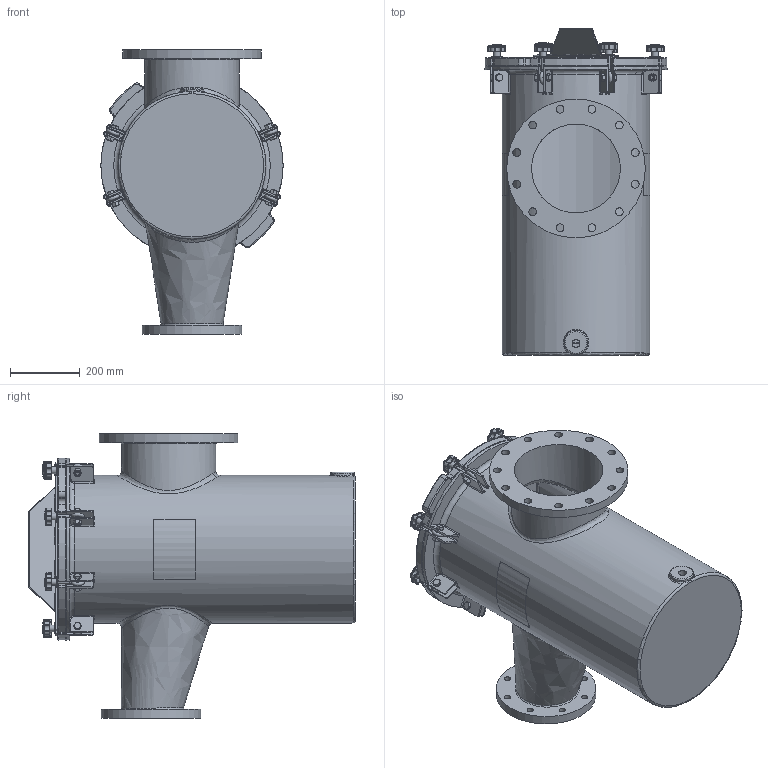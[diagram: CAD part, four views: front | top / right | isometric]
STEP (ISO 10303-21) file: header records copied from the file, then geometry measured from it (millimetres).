
FILE_DESCRIPTION(/* description */ ('250MM X 150MM FIBERGLASS STRAINER BODY'),/* implementation_level */ '2;1');
FILE_NAME(/* name */ 'E:\New folder (7)\Ready for delivery - Do not Disturb -Updated with metric Flange\Workspace\FG Reducing Strainer\Guardian FG Reducing H&L Strainer (Metric)\STRAINER H&L 250MM X 150MM.step',/* time_stamp */ '2016-10-19T04:15:07+06:00',/* author */ ('20076253'),/* organization */ (''),/* preprocessor_version */ 'ST-DEVELOPER v16.1',/* originating_system */ 'Autodesk Inventor 2016',/* authorisation */ '');
FILE_SCHEMA (('AUTOMOTIVE_DESIGN { 1 0 10303 214 3 1 1 }'));
Length unit declared in the file: inch
Products named in the file (24): NBFGBODY10X06MM; 150NBCVR20R2; 150NBGSK16R1; Perforated Basket 16in; Bride (Ring) 16in; Baffle 16in; Handle 16in; Bottom Strainer 16in; NBBSK10T316; BRACESTRCVR16_Welds; BRACE (BASE) FOR 16 BODY; BRACE (PROJ) FOR 16 BODY; Bumper; BRACESTRCVR16; Nut- 1_2  UNC; Bolt-1_2 x 1 1_2  UNC; EyeBolt; Washer; Knob M10; Securing Assembly For FG  with Brace; Securing Assembly For FG without Brace; Label for 16.625 inch (Right); Label for 16.625 inch (Left); STRAINER H&L 250MM X 150MM
Assembly tree (39 placements, depth 3):
  STRAINER H&L 250MM X 150MM
    NBFGBODY10X06MM
    150NBCVR20R2
    150NBGSK16R1
    NBBSK10T316
      Perforated Basket 16in
      Bride (Ring) 16in
      Baffle 16in
      Handle 16in
      Bottom Strainer 16in
    BRACESTRCVR16
      BRACESTRCVR16_Welds
      BRACE (BASE) FOR 16 BODY
      BRACE (PROJ) FOR 16 BODY
      Bumper  x6
    Securing Assembly For FG  with Brace  x2
      Nut- 1_2  UNC
      Bolt-1_2 x 1 1_2  UNC
      EyeBolt
      Washer
      Knob M10
    Securing Assembly For FG without Brace  x6
      Nut- 1_2  UNC
      Bolt-1_2 x 1 1_2  UNC
      EyeBolt
      Washer
      Knob M10
    Label for 16.625 inch (Right)
    Label for 16.625 inch (Left)
Bounding box: 520.7 x 933.45 x 812.8 mm (x, y, z)
Volume: 22679374.3 mm3; surface area: 5744333.1 mm2
Topology: 66 solids, 66 shells, 1804 faces, 4113 edges, 2430 vertices
Faces by surface type: cylinder 658, plane 500, cone 184, torus 166, sphere 158, bspline 138
Full cylindrical faces by diameter (mm): 3.175 x11, 6.35 x2, 8.382 x8, 9.525 x16, 10.592 x8, 12.7 x8, 15.875 x16, 17.78 x8, 19 x16, 19.05 x8, 22.098 x12, 22.809 x1, 31.75 x8, 68.263 x1, 254 x1, 269.875 x1, 284.48 x1, 295.275 x2, 298.45 x1, 300.99 x1, 396.24 x1, 406.4 x2, 409.575 x1, 415.925 x1, 422.275 x1, 457.2 x1, 463.55 x1
Entity records: 33944 total; most frequent: CARTESIAN_POINT 11153, DIRECTION 4715, ORIENTED_EDGE 4300, EDGE_CURVE 2150, AXIS2_PLACEMENT_3D 1934, VERTEX_POINT 1347, EDGE_LOOP 1167, ADVANCED_FACE 954
